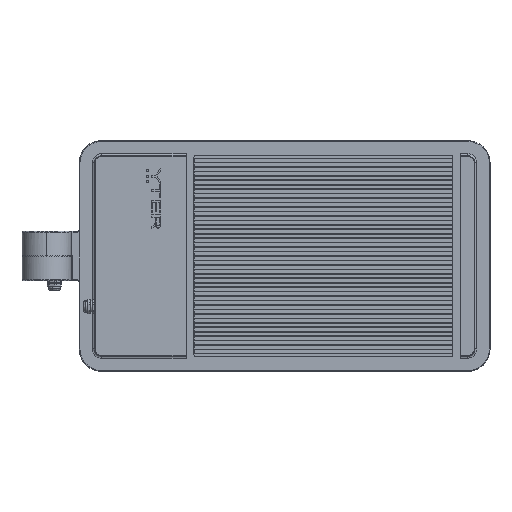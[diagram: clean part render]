
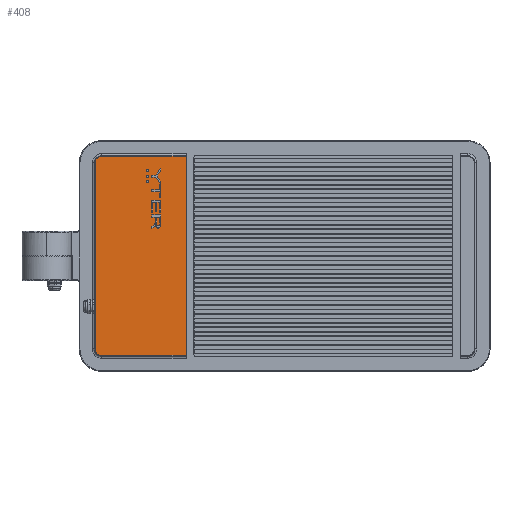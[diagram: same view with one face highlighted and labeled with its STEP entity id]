
A CAD part, top view. The second image highlights one B-rep face of the part: STEP entity #408.
In plain terms, the highlighted planar face has unit normal (0, 0, -1).
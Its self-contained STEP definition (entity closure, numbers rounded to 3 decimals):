
#408=ADVANCED_FACE('',(#1057),#11249,.T.);
#1057=FACE_OUTER_BOUND('',#1712,.T.);
#1712=EDGE_LOOP('',(#2851,#2852,#2853,#2854,#2855,#2856));
#2851=ORIENTED_EDGE('',*,*,#6117,.T.);
#2852=ORIENTED_EDGE('',*,*,#6073,.T.);
#2853=ORIENTED_EDGE('',*,*,#6115,.T.);
#2854=ORIENTED_EDGE('',*,*,#6113,.T.);
#2855=ORIENTED_EDGE('',*,*,#6110,.T.);
#2856=ORIENTED_EDGE('',*,*,#6187,.F.);
#6073=EDGE_CURVE('',#9894,#9895,#7828,.T.);
#6110=EDGE_CURVE('',#9917,#9916,#8281,.T.);
#6113=EDGE_CURVE('',#9919,#9917,#7854,.T.);
#6115=EDGE_CURVE('',#9895,#9919,#8283,.T.);
#6117=EDGE_CURVE('',#9920,#9894,#8284,.T.);
#6187=EDGE_CURVE('',#9920,#9916,#8318,.T.);
#7828=(
BOUNDED_CURVE()
B_SPLINE_CURVE(2,(#16298,#16299,#16300),.UNSPECIFIED.,.F.,.F.)
B_SPLINE_CURVE_WITH_KNOTS((3,3),(1.571,3.142),
 .UNSPECIFIED.)
CURVE()
GEOMETRIC_REPRESENTATION_ITEM()
RATIONAL_B_SPLINE_CURVE((1.,0.707,1.))
REPRESENTATION_ITEM('')
);
#7854=(
BOUNDED_CURVE()
B_SPLINE_CURVE(2,(#16404,#16405,#16406),.UNSPECIFIED.,.F.,.F.)
B_SPLINE_CURVE_WITH_KNOTS((3,3),(1.571,3.142),
 .UNSPECIFIED.)
CURVE()
GEOMETRIC_REPRESENTATION_ITEM()
RATIONAL_B_SPLINE_CURVE((1.,0.707,1.))
REPRESENTATION_ITEM('')
);
#8281=B_SPLINE_CURVE_WITH_KNOTS('',1,(#16396,#16397),.UNSPECIFIED.,.F.,
 .F.,(2,2),(4.142,5.142),.UNSPECIFIED.);
#8283=B_SPLINE_CURVE_WITH_KNOTS('',1,(#16409,#16410),.UNSPECIFIED.,.F.,
 .F.,(2,2),(1.571,2.571),.UNSPECIFIED.);
#8284=B_SPLINE_CURVE_WITH_KNOTS('',1,(#16414,#16415),.UNSPECIFIED.,.F.,
 .F.,(2,2),(1.571,2.571),.UNSPECIFIED.);
#8318=B_SPLINE_CURVE_WITH_KNOTS('',1,(#16590,#16591),.UNSPECIFIED.,.F.,
 .F.,(2,2),(6.712,7.712),.UNSPECIFIED.);
#9894=VERTEX_POINT('',#15907);
#9895=VERTEX_POINT('',#15908);
#9916=VERTEX_POINT('',#15929);
#9917=VERTEX_POINT('',#15930);
#9919=VERTEX_POINT('',#15932);
#9920=VERTEX_POINT('',#15933);
#11249=PLANE('',#11710);
#11710=AXIS2_PLACEMENT_3D('',#15356,#12155,$);
#12155=DIRECTION('',(0.,0.,-1.));
#15356=CARTESIAN_POINT('',(-260.527,-173.264,37.5));
#15907=CARTESIAN_POINT('',(-250.527,-173.264,37.5));
#15908=CARTESIAN_POINT('',(-260.527,-163.264,37.5));
#15929=CARTESIAN_POINT('',(-121.527,130.736,37.5));
#15930=CARTESIAN_POINT('',(-250.527,130.736,37.5));
#15932=CARTESIAN_POINT('',(-260.527,120.736,37.5));
#15933=CARTESIAN_POINT('',(-121.527,-173.264,37.5));
#16298=CARTESIAN_POINT('',(-250.527,-173.264,37.5));
#16299=CARTESIAN_POINT('',(-260.527,-173.264,37.5));
#16300=CARTESIAN_POINT('',(-260.527,-163.264,37.5));
#16396=CARTESIAN_POINT('',(-250.527,130.736,37.5));
#16397=CARTESIAN_POINT('',(-121.527,130.736,37.5));
#16404=CARTESIAN_POINT('',(-260.527,120.736,37.5));
#16405=CARTESIAN_POINT('',(-260.527,130.736,37.5));
#16406=CARTESIAN_POINT('',(-250.527,130.736,37.5));
#16409=CARTESIAN_POINT('',(-260.527,-163.264,37.5));
#16410=CARTESIAN_POINT('',(-260.527,120.736,37.5));
#16414=CARTESIAN_POINT('',(-121.527,-173.264,37.5));
#16415=CARTESIAN_POINT('',(-250.527,-173.264,37.5));
#16590=CARTESIAN_POINT('',(-121.527,-173.264,37.5));
#16591=CARTESIAN_POINT('',(-121.527,130.736,37.5));
